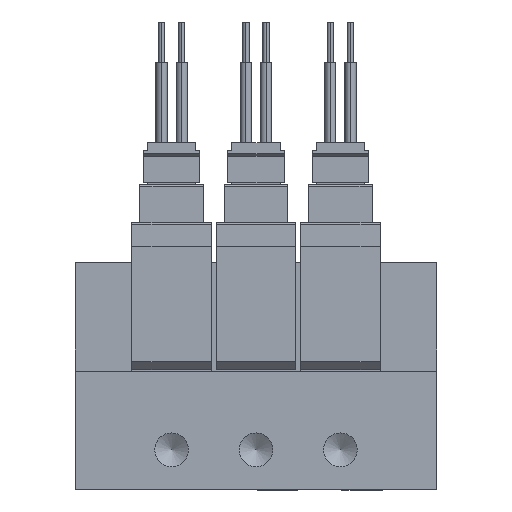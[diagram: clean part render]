
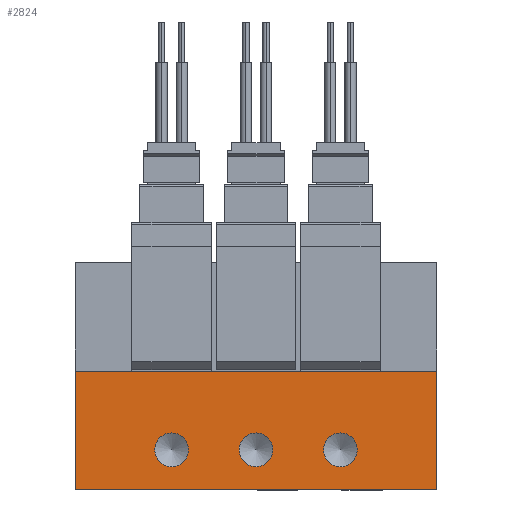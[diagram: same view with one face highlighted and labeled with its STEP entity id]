
A CAD part, front view. The second image highlights one B-rep face of the part: STEP entity #2824.
In plain terms, the highlighted planar face has unit normal (0, -1, 0).
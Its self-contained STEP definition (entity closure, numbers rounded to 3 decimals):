
#2824=ADVANCED_FACE('',(#4380,#4381,#4382,#4383),#4384,.F.);
#4380=FACE_BOUND('',#7536,.T.);
#4381=FACE_BOUND('',#7537,.T.);
#4382=FACE_BOUND('',#7538,.T.);
#4383=FACE_OUTER_BOUND('',#7539,.T.);
#4384=PLANE('',#7540);
#7536=EDGE_LOOP('',(#11644));
#7537=EDGE_LOOP('',(#11645));
#7538=EDGE_LOOP('',(#11646));
#7539=EDGE_LOOP('',(#11647,#11648,#11649,#11650));
#7540=AXIS2_PLACEMENT_3D('',#11651,#11652,#11653);
#11644=ORIENTED_EDGE('',*,*,#23949,.F.);
#11645=ORIENTED_EDGE('',*,*,#23971,.F.);
#11646=ORIENTED_EDGE('',*,*,#23972,.F.);
#11647=ORIENTED_EDGE('',*,*,#23973,.F.);
#11648=ORIENTED_EDGE('',*,*,#23974,.F.);
#11649=ORIENTED_EDGE('',*,*,#23975,.T.);
#11650=ORIENTED_EDGE('',*,*,#23969,.T.);
#11651=CARTESIAN_POINT('',(-45.0,0.,14.8));
#11652=DIRECTION('',(0.0,1.0,0.));
#11653=DIRECTION('',(0.0,0.,1.0));
#23949=EDGE_CURVE('',#27997,#27997,#27998,.T.);
#23969=EDGE_CURVE('',#28034,#28032,#28035,.T.);
#23971=EDGE_CURVE('',#28037,#28037,#28038,.T.);
#23972=EDGE_CURVE('',#28039,#28039,#28040,.T.);
#23973=EDGE_CURVE('',#28041,#28032,#28042,.T.);
#23974=EDGE_CURVE('',#28043,#28041,#28044,.T.);
#23975=EDGE_CURVE('',#28043,#28034,#28045,.T.);
#27997=VERTEX_POINT('',#34869);
#27998=CIRCLE('',#34870,2.1);
#28032=VERTEX_POINT('',#34917);
#28034=VERTEX_POINT('',#34920);
#28035=LINE('',#34921,#34922);
#28037=VERTEX_POINT('',#34925);
#28038=CIRCLE('',#34926,2.1);
#28039=VERTEX_POINT('',#34927);
#28040=CIRCLE('',#34928,2.1);
#28041=VERTEX_POINT('',#34929);
#28042=LINE('',#34930,#34931);
#28043=VERTEX_POINT('',#34932);
#28044=LINE('',#34933,#34934);
#28045=LINE('',#34935,#34936);
#34869=CARTESIAN_POINT('',(-33.0,0.,2.9));
#34870=AXIS2_PLACEMENT_3D('',#44496,#44497,#44498);
#34917=CARTESIAN_POINT('',(0.0,0.0,0.0));
#34920=CARTESIAN_POINT('',(-45.0,0.0,0.0));
#34921=CARTESIAN_POINT('',(-45.0,0.0,0.0));
#34922=VECTOR('',#44528,1.0);
#34925=CARTESIAN_POINT('',(-22.5,0.,2.9));
#34926=AXIS2_PLACEMENT_3D('',#44530,#44531,#44532);
#34927=CARTESIAN_POINT('',(-12.0,0.,2.9));
#34928=AXIS2_PLACEMENT_3D('',#44533,#44534,#44535);
#34929=CARTESIAN_POINT('',(0.0,0.,14.8));
#34930=CARTESIAN_POINT('',(0.0,0.,14.8));
#34931=VECTOR('',#44536,1.0);
#34932=CARTESIAN_POINT('',(-45.0,0.,14.8));
#34933=CARTESIAN_POINT('',(-45.0,0.,14.8));
#34934=VECTOR('',#44537,1.0);
#34935=CARTESIAN_POINT('',(-45.0,0.,14.8));
#34936=VECTOR('',#44538,1.0);
#44496=CARTESIAN_POINT('',(-33.0,0.0,5.0));
#44497=DIRECTION('',(0.0,-1.0,0.));
#44498=DIRECTION('',(0.0,0.,-1.0));
#44528=DIRECTION('',(1.0,0.0,0.0));
#44530=CARTESIAN_POINT('',(-22.5,0.0,5.0));
#44531=DIRECTION('',(0.0,-1.0,0.));
#44532=DIRECTION('',(0.0,0.,-1.0));
#44533=CARTESIAN_POINT('',(-12.0,0.0,5.0));
#44534=DIRECTION('',(0.0,-1.0,0.));
#44535=DIRECTION('',(0.0,0.,-1.0));
#44536=DIRECTION('',(0.0,0.,-1.0));
#44537=DIRECTION('',(1.0,0.0,0.0));
#44538=DIRECTION('',(0.0,0.,-1.0));
